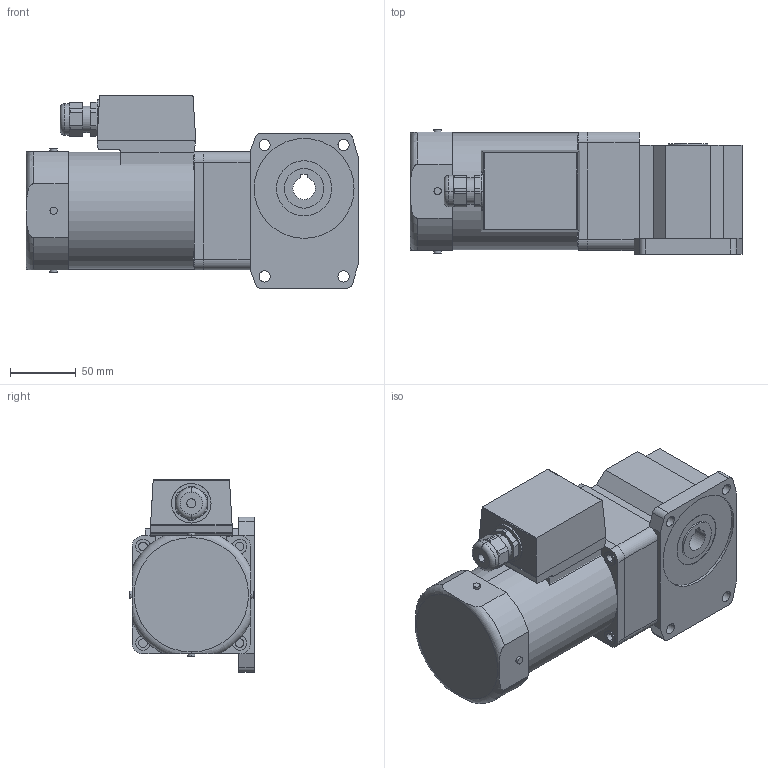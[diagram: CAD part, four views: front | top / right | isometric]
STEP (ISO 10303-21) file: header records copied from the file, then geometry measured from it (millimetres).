
FILE_DESCRIPTION(('starvars output'),'2;1');
FILE_NAME('5IK90GE-CW2TE _ 5GE5RH.stp','10:54:45 2015/05/11',( 'Thomas Industrial Network Germany GmbH'),( 'Thomas Industrial Network Germany GmbH'),'unknown preprocess','ACIS' ,'unknown authorization');
FILE_SCHEMA(('AUTOMOTIVE_DESIGN_CC2 {UNKNOWN IMPLEMENTATION LEVEL}'));
Length unit declared in the file: millimetre
Products named in the file (2): PRODUCT_ID_3014; PRODUCT_ID_3015
Bounding box: 252.5 x 95 x 146.5 mm (x, y, z)
Volume: 1972080.4 mm3; surface area: 150764.4 mm2
Topology: 3 solids, 3 shells, 223 faces, 564 edges, 370 vertices
Faces by surface type: plane 111, cylinder 100, torus 12
Entity records: 8274 total; most frequent: CARTESIAN_POINT 1369, ORIENTED_EDGE 1128, DIRECTION 896, EDGE_CURVE 564, VERTEX_POINT 370, VECTOR 322, LINE 322, AXIS2_PLACEMENT_3D 287
